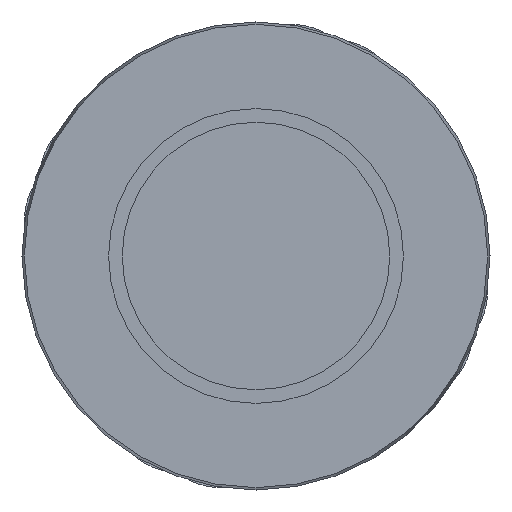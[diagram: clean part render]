
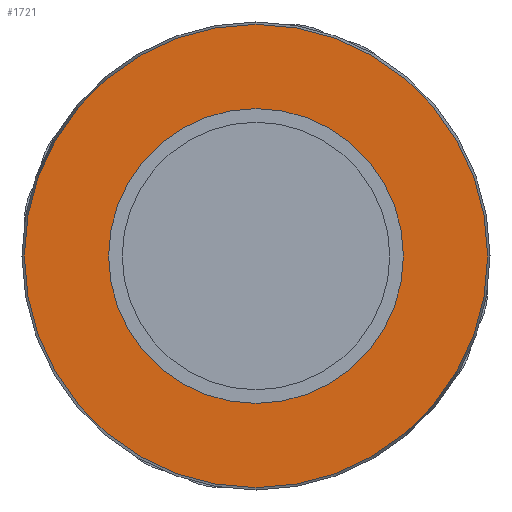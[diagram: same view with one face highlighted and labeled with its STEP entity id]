
A CAD part, front view. The second image highlights one B-rep face of the part: STEP entity #1721.
In plain terms, the highlighted planar face has unit normal (0, -1, 0).
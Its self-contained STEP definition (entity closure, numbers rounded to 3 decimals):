
#1687=CARTESIAN_POINT('',(-7.,-15.875,0.0));
#1688=VERTEX_POINT('',#1687);
#1689=CARTESIAN_POINT('',(0.0,-15.875,0.0));
#1690=DIRECTION('',(0.0,1.0,0.0));
#1691=DIRECTION('',(-1.0,0.0,0.0));
#1692=AXIS2_PLACEMENT_3D('',#1689,#1690,#1691);
#1693=CIRCLE('',#1692,7.);
#1694=EDGE_CURVE('',#1688,#1688,#1693,.T.);
#1702=CARTESIAN_POINT('',(-9.,-15.875,0.0));
#1703=DIRECTION('',(0.0,-1.0,0.0));
#1704=DIRECTION('',(0.0,0.0,-1.0));
#1705=AXIS2_PLACEMENT_3D('',#1702,#1703,#1704);
#1706=PLANE('',#1705);
#1707=CARTESIAN_POINT('',(-11.0,-15.875,0.0));
#1708=VERTEX_POINT('',#1707);
#1709=CARTESIAN_POINT('',(0.0,-15.875,0.0));
#1710=DIRECTION('',(0.0,1.0,0.0));
#1711=DIRECTION('',(-1.0,0.0,0.0));
#1712=AXIS2_PLACEMENT_3D('',#1709,#1710,#1711);
#1713=CIRCLE('',#1712,11.0);
#1714=EDGE_CURVE('',#1708,#1708,#1713,.T.);
#1715=ORIENTED_EDGE('',*,*,#1714,.F.);
#1716=EDGE_LOOP('',(#1715));
#1717=FACE_OUTER_BOUND('',#1716,.T.);
#1718=ORIENTED_EDGE('',*,*,#1694,.T.);
#1719=EDGE_LOOP('',(#1718));
#1720=FACE_BOUND('',#1719,.T.);
#1721=ADVANCED_FACE('',(#1717,#1720),#1706,.T.);
